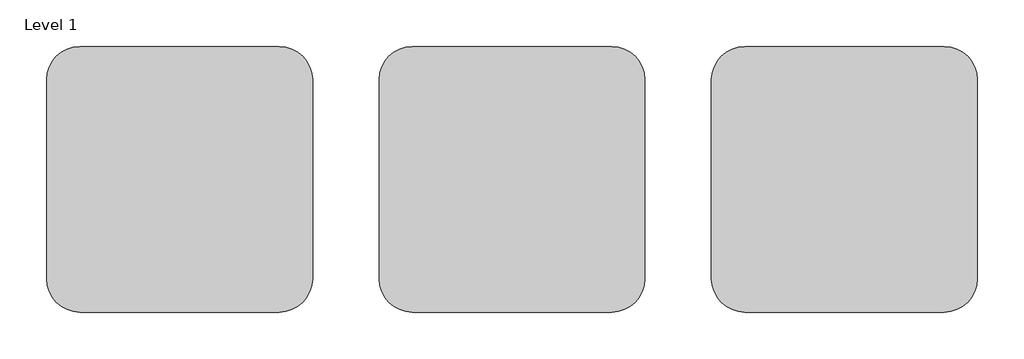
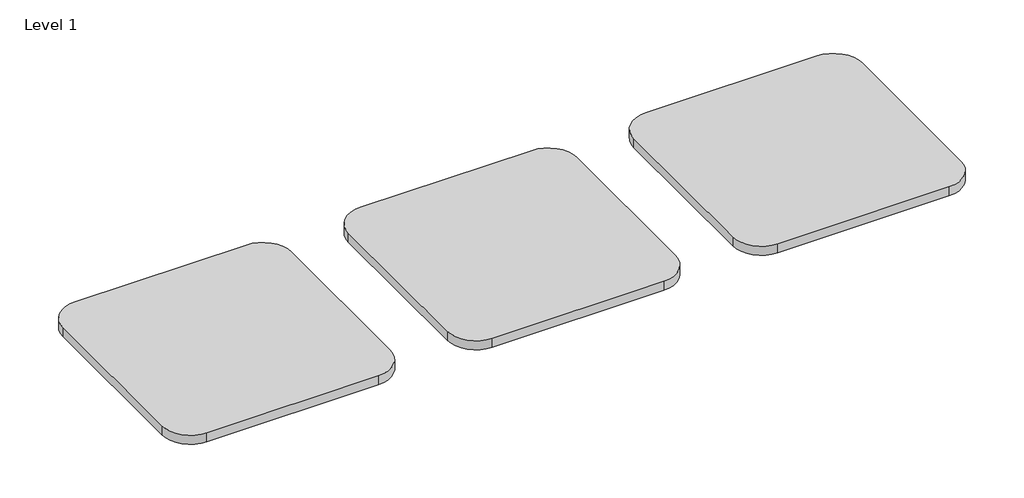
# One storey: 3 proxies.
"""IFC4 building model written with IfcOpenShell, lengths in millimetres."""

from ifc_helpers import new_model, si_unit, origin, place, context, project, spatial, transform, mapped, element, save
from components import materialsample_type_1_9638d12c

model = new_model("IFC4")

# Units and contexts
model_context = context("Model", 3, world=origin())
ifc_project = project(units=[si_unit("LENGTHUNIT", "METRE", prefix="MILLI")], contexts=[model_context])

# Site, building, storey
site = spatial("IfcSite", under=ifc_project)
building = spatial("IfcBuilding", under=site)
storey = spatial("IfcBuildingStorey", under=building, Name="Level 1", Elevation=0.0)

# Proxies
placement = place(None, origin())
materialsample_type_1_shape = materialsample_type_1_9638d12c(model_context)
element("IfcBuildingElementProxy", 1, Name="MaterialSample : Type 1", ObjectType="MaterialSample : Type 1", at=placement, inside=storey, context=model_context, shape_type="MappedRepresentation", body=[
    mapped(materialsample_type_1_shape, transform((368.3376847, 1894.9331149, 0.0), x_axis=(1.0, 0.0, 0.0), y_axis=(0.0, 1.0, 0.0), z_axis=(0.0, 0.0, 1.0))),
])
element("IfcBuildingElementProxy", 2, Name="MaterialSample : Type 1", ObjectType="MaterialSample : Type 1", at=placement, inside=storey, context=model_context, shape_type="MappedRepresentation", body=[
    mapped(materialsample_type_1_shape, transform((1130.3376847, 1894.9331149, 0.0), x_axis=(1.0, 0.0, 0.0), y_axis=(0.0, 1.0, 0.0), z_axis=(0.0, 0.0, 1.0))),
])
element("IfcBuildingElementProxy", 3, Name="MaterialSample : Type 1", ObjectType="MaterialSample : Type 1", at=placement, inside=storey, context=model_context, shape_type="MappedRepresentation", body=[
    mapped(materialsample_type_1_shape, transform((1892.3376847, 1894.9331149, 0.0), x_axis=(1.0, 0.0, 0.0), y_axis=(0.0, 1.0, 0.0), z_axis=(0.0, 0.0, 1.0))),
])

save(model, "model.ifc")
